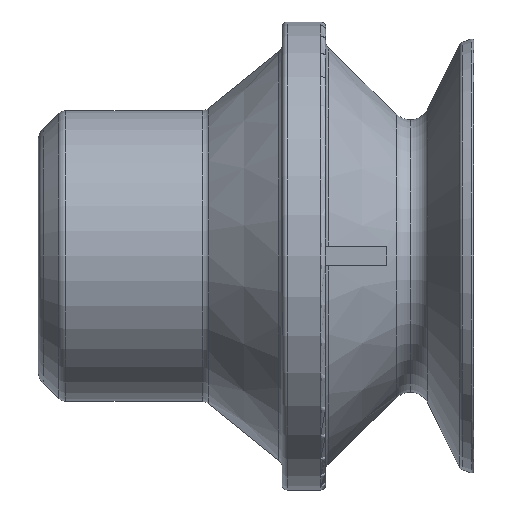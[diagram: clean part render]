
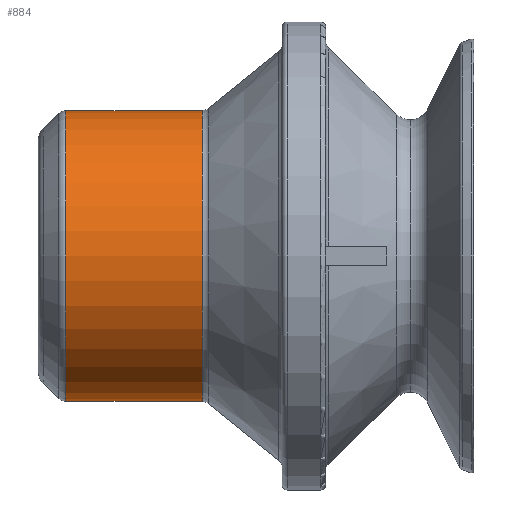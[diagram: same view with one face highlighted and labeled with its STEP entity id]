
A CAD part, left-side view. The second image highlights one B-rep face of the part: STEP entity #884.
In plain terms, the highlighted cylindrical face has radius 7.35 mm (diameter 14.7 mm), a partial arc.
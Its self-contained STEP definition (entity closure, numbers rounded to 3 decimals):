
#125 = EDGE_CURVE ( 'NONE', #1268, #1395, #2308, .T. ) ;
#233 = DIRECTION ( 'NONE',  ( 0., 0., 1. ) ) ;
#327 = CARTESIAN_POINT ( 'NONE',  ( 0., -1.388, 7.35 ) ) ;
#443 = FACE_OUTER_BOUND ( 'NONE', #1977, .T. ) ;
#496 = DIRECTION ( 'NONE',  ( 0., 0., 1. ) ) ;
#505 = DIRECTION ( 'NONE',  ( 0., 1., 0. ) ) ;
#568 = VECTOR ( 'NONE', #505, 1000. ) ;
#635 = AXIS2_PLACEMENT_3D ( 'NONE', #1346, #2578, #496 ) ;
#725 = VERTEX_POINT ( 'NONE', #327 ) ;
#741 = CIRCLE ( 'NONE', #635, 7.35 ) ;
#753 = ORIENTED_EDGE ( 'NONE', *, *, #1599, .F. ) ;
#884 = ADVANCED_FACE ( 'NONE', ( #443 ), #1148, .T. ) ;
#885 = CARTESIAN_POINT ( 'NONE',  ( 0., -1.388, 0. ) ) ;
#936 = VECTOR ( 'NONE', #1302, 1000. ) ;
#1082 = AXIS2_PLACEMENT_3D ( 'NONE', #2661, #1876, #1616 ) ;
#1133 = LINE ( 'NONE', #1728, #568 ) ;
#1148 = CYLINDRICAL_SURFACE ( 'NONE', #1082, 7.35 ) ;
#1199 = CIRCLE ( 'NONE', #1793, 7.35 ) ;
#1268 = VERTEX_POINT ( 'NONE', #2535 ) ;
#1302 = DIRECTION ( 'NONE',  ( 0., 1., 0. ) ) ;
#1346 = CARTESIAN_POINT ( 'NONE',  ( 0., -8.29, 0. ) ) ;
#1348 = EDGE_CURVE ( 'NONE', #2080, #725, #1133, .T. ) ;
#1395 = VERTEX_POINT ( 'NONE', #1781 ) ;
#1469 = CARTESIAN_POINT ( 'NONE',  ( 0., -8.29, 7.35 ) ) ;
#1486 = CARTESIAN_POINT ( 'NONE',  ( 0., 0., -7.35 ) ) ;
#1593 = ORIENTED_EDGE ( 'NONE', *, *, #1942, .T. ) ;
#1599 = EDGE_CURVE ( 'NONE', #1395, #725, #1199, .T. ) ;
#1616 = DIRECTION ( 'NONE',  ( 0., 0., 1. ) ) ;
#1728 = CARTESIAN_POINT ( 'NONE',  ( 0., 0., 7.35 ) ) ;
#1781 = CARTESIAN_POINT ( 'NONE',  ( 0., -1.388, -7.35 ) ) ;
#1793 = AXIS2_PLACEMENT_3D ( 'NONE', #885, #2088, #233 ) ;
#1873 = ORIENTED_EDGE ( 'NONE', *, *, #1348, .T. ) ;
#1876 = DIRECTION ( 'NONE',  ( 0., 1., 0. ) ) ;
#1942 = EDGE_CURVE ( 'NONE', #1268, #2080, #741, .T. ) ;
#1977 = EDGE_LOOP ( 'NONE', ( #2228, #1593, #1873, #753 ) ) ;
#2080 = VERTEX_POINT ( 'NONE', #1469 ) ;
#2088 = DIRECTION ( 'NONE',  ( 0., 1., 0. ) ) ;
#2228 = ORIENTED_EDGE ( 'NONE', *, *, #125, .F. ) ;
#2308 = LINE ( 'NONE', #1486, #936 ) ;
#2535 = CARTESIAN_POINT ( 'NONE',  ( 0., -8.29, -7.35 ) ) ;
#2578 = DIRECTION ( 'NONE',  ( 0., 1., 0. ) ) ;
#2661 = CARTESIAN_POINT ( 'NONE',  ( 0., 0., 0. ) ) ;
